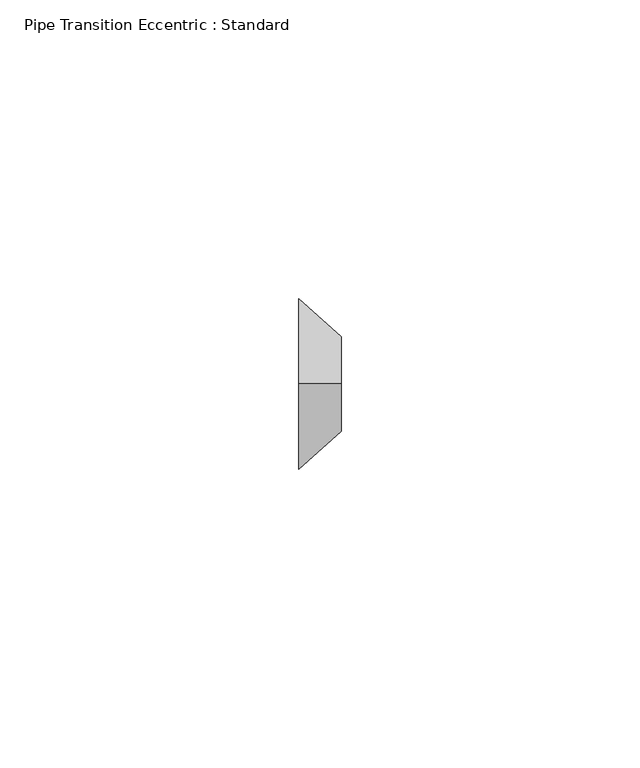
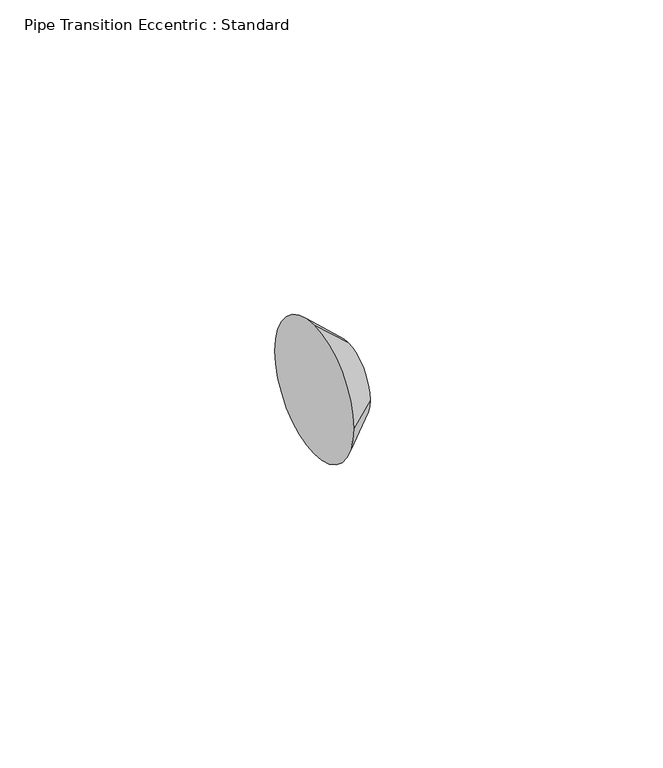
"""IFC4 building model written with IfcOpenShell, lengths in millimetres: pipe fitting geometry, Pipe Transition Eccentric : Standard."""

import ifcopenshell
import ifcopenshell.guid

model = None  # the IFC model being written
_history = None  # IfcOwnerHistory: only IFC2X3 demands one
_inside = {}  # id of a spatial element -> (the spatial element, [elements in it])
_under = {}  # id of a project, library or spatial element -> (it, [spatial elements below it])
_declared = {}  # id of a project -> (the project, [libraries it declares])
_typed = {}  # id of a type object -> (the type object, [elements of that type])
_made_of = {}  # id of a material, layer set ... -> (it, [elements and type objects made of it])


def new_model(schema):
    """Start an empty IFC model of exactly this schema.

    Asked for "IFC4X3", IfcOpenShell would pick the latest addendum, in which some entities
    have other attributes; the version numbers below select the first issue.
    IFC2X3 requires an IfcOwnerHistory on every rooted entity: one is made here for all.
    """
    global model, _history
    if schema == "IFC4X3":
        model = ifcopenshell.file(schema_version=(4, 3, 0, 0))
    else:
        model = ifcopenshell.file(schema=schema)
    _inside.clear()
    _under.clear()
    _declared.clear()
    _typed.clear()
    _made_of.clear()
    _history = None
    if model.schema == "IFC2X3":
        org = make("IfcOrganization", Name="unknown")
        user = make(
            "IfcPersonAndOrganization",
            ThePerson=make("IfcPerson", FamilyName="unknown"),
            TheOrganization=org,
        )
        app = make(
            "IfcApplication",
            ApplicationDeveloper=org,
            Version="unknown",
            ApplicationFullName="unknown",
            ApplicationIdentifier="unknown",
        )
        _history = make(
            "IfcOwnerHistory",
            OwningUser=user,
            OwningApplication=app,
            ChangeAction="ADDED",
            CreationDate=0,
        )
    return model


def make(cls, **values):
    """One entity of the class cls with the attributes given. An attribute that is None is left unset."""
    return model.create_entity(
        cls, **{name: value for name, value in values.items() if value is not None}
    )


def rooted(cls, **values):
    """An entity with a GlobalId (a new one), such as an element, a storey or a relation."""
    return make(cls, GlobalId=ifcopenshell.guid.new(), OwnerHistory=_history, **values)


def si_unit(unit_type, name, prefix=None):
    """IfcSIUnit, for example si_unit("LENGTHUNIT", "METRE", prefix="MILLI")."""
    return make("IfcSIUnit", UnitType=unit_type, Prefix=prefix, Name=name)


def assignment(units):
    """IfcUnitAssignment: the units of a project."""
    return None if units is None else make("IfcUnitAssignment", Units=units)


def point(xyz):
    """IfcCartesianPoint."""
    return None if xyz is None else make("IfcCartesianPoint", Coordinates=xyz)


def direction(xyz):
    """IfcDirection."""
    return None if xyz is None else make("IfcDirection", DirectionRatios=xyz)


def frame(location, z_axis=None, x_axis=None):
    """IfcAxis2Placement3D, a coordinate frame: its origin and axes. An axis left out is left unset."""
    return make(
        "IfcAxis2Placement3D",
        Location=point(location),
        Axis=direction(z_axis),
        RefDirection=direction(x_axis),
    )


def origin():
    """The frame at (0, 0, 0) with its axes left unset."""
    return frame((0.0, 0.0, 0.0))


def place(relative_to, where):
    """IfcLocalPlacement: puts the frame where relative to a parent placement (None: the world)."""
    return make(
        "IfcLocalPlacement", PlacementRelTo=relative_to, RelativePlacement=where
    )


def context(
    kind, dimensions, precision=None, world=None, true_north=None, identifier=None
):
    """IfcGeometricRepresentationContext, for example the 3D "Model" context."""
    return make(
        "IfcGeometricRepresentationContext",
        ContextIdentifier=identifier,
        ContextType=kind,
        CoordinateSpaceDimension=dimensions,
        Precision=precision,
        WorldCoordinateSystem=world,
        TrueNorth=true_north,
    )


def project(units=None, contexts=None):
    """IfcProject with its units and contexts."""
    return rooted(
        "IfcProject",
        Name="project",
        RepresentationContexts=contexts,
        UnitsInContext=assignment(units),
    )


def spatial(cls, under=None, at=None, **own):
    """A site, building, storey or space (cls), placed at a placement, below another one or the project."""
    s = rooted(cls, ObjectPlacement=at, **own)
    if under is not None:
        _under.setdefault(under.id(), (under, []))[1].append(s)
    return s


def polyline(points):
    """IfcPolyline through the points."""
    return make("IfcPolyline", Points=[point(p) for p in points])


def circle_curve(where, radius):
    """IfcCircle in the frame where."""
    return make("IfcCircle", Position=where, Radius=radius)


def shape(context_of_items, identifier, shape_type, items):
    """IfcShapeRepresentation: the items that make up one representation, for example the "Body"."""
    return make(
        "IfcShapeRepresentation",
        ContextOfItems=context_of_items,
        RepresentationIdentifier=identifier,
        RepresentationType=shape_type,
        Items=items,
    )


def source(mapping_origin, context_of_items, identifier, shape_type, items):
    """IfcRepresentationMap: a shape defined once, which mapped items show again and again."""
    return make(
        "IfcRepresentationMap",
        MappingOrigin=mapping_origin,
        MappedRepresentation=shape(context_of_items, identifier, shape_type, items),
    )


def transform(
    local_origin,
    x_axis=None,
    y_axis=None,
    z_axis=None,
    scale=None,
    scale2=None,
    scale3=None,
    uniform=True,
):
    """IfcCartesianTransformationOperator3D, or its non-uniform kind. x_axis, y_axis, z_axis: its Axis1, 2, 3."""
    if uniform:
        return make(
            "IfcCartesianTransformationOperator3D",
            Axis1=direction(x_axis),
            Axis2=direction(y_axis),
            LocalOrigin=point(local_origin),
            Scale=scale,
            Axis3=direction(z_axis),
        )
    return make(
        "IfcCartesianTransformationOperator3DnonUniform",
        Axis1=direction(x_axis),
        Axis2=direction(y_axis),
        LocalOrigin=point(local_origin),
        Scale=scale,
        Axis3=direction(z_axis),
        Scale2=scale2,
        Scale3=scale3,
    )


def mapped(mapping_source, mapping_target):
    """IfcMappedItem: shows the shape of a source again, moved by a transform."""
    return make(
        "IfcMappedItem", MappingSource=mapping_source, MappingTarget=mapping_target
    )


def made_of(thing, what):
    """Note that an element or type object is made of a material, layer set ...; save() writes the relation."""
    if what is not None:
        _made_of.setdefault(what.id(), (what, []))[1].append(thing)
    return thing


def element(
    cls,
    number,
    at=None,
    inside=None,
    cuts=None,
    type_object=None,
    material=None,
    context=None,
    identifier="Body",
    shape_type=None,
    held_by="IfcProductDefinitionShape",
    body=None,
    shapes=None,
    **own,
):
    """One element of the class cls, such as IfcWall. Its Tag is "e" and its number.

    at: its placement. inside: the storey or other place that contains it. cuts: it is an
    opening in that element (IfcRelVoidsElement). A single representation is given by context,
    identifier, shape_type and body (its items); several are given by shapes. held_by: the class
    of the entity that holds the representations. save() writes the other relations.
    """
    e = rooted(cls, Tag="e%d" % number, ObjectPlacement=at, **own)
    if body is not None:
        shapes = [shape(context, identifier, shape_type, body)]
    if shapes is not None:
        e.Representation = make(held_by, Representations=shapes)
    if inside is not None:
        _inside.setdefault(inside.id(), (inside, []))[1].append(e)
    if cuts is not None:
        rooted(
            "IfcRelVoidsElement", RelatingBuildingElement=cuts, RelatedOpeningElement=e
        )
    if type_object is not None:
        _typed.setdefault(type_object.id(), (type_object, []))[1].append(e)
    return made_of(e, material)


def aggregate(whole, parts):
    """IfcRelAggregates: a whole, such as a stair, and the parts it consists of."""
    return rooted("IfcRelAggregates", RelatingObject=whole, RelatedObjects=parts)


def save(model, path):
    """Write the relations noted so far, then the file.

    IfcRelAggregates (storeys below a building ...), IfcRelContainedInSpatialStructure (elements
    in a storey), IfcRelDefinesByType, IfcRelAssociatesMaterial and IfcRelDeclares: one each for
    every whole, place, type object, material and project.
    """
    for whole, parts in _under.values():
        aggregate(whole, parts)
    for where, things in _inside.values():
        rooted(
            "IfcRelContainedInSpatialStructure",
            RelatedElements=things,
            RelatingStructure=where,
        )
    for kind, things in _typed.values():
        rooted("IfcRelDefinesByType", RelatedObjects=things, RelatingType=kind)
    for what, things in _made_of.values():
        rooted("IfcRelAssociatesMaterial", RelatedObjects=things, RelatingMaterial=what)
    for by, libraries in _declared.values():
        rooted("IfcRelDeclares", RelatingContext=by, RelatedDefinitions=libraries)
    model.write(path)


def plane_surface(at):
    """IfcPlane: the flat surface through the origin of the frame at, square to its z axis."""
    return make("IfcPlane", Position=at)


def revolved_surface(curve, axis_point, axis_direction):
    """IfcSurfaceOfRevolution: the curve turned about the line through axis_point along axis_direction."""
    return make(
        "IfcSurfaceOfRevolution",
        SweptCurve=make("IfcArbitraryOpenProfileDef", ProfileType="CURVE", Curve=curve),
        AxisPosition=make("IfcAxis1Placement", Location=point(axis_point), Axis=direction(axis_direction)),
    )


def advanced_brep(points, edges, surfaces, faces):
    """IfcAdvancedBrep: a solid bounded by faces that lie on surfaces and meet in shared edges.

    An edge is (start, end): straight between two places in points (the first is 0);
    or (start, end, curve); or (start, end, curve, False) where it runs against its curve.
    A face is (place in surfaces, loops), or (place, loops, False) where it looks against
    its surface's normal. A loop lists edges by number (the first is 1), with a minus sign
    where the edge is run from its end to its start. The first loop is the outer one.
    """
    corners = [point(p) for p in points]
    vertices = [make("IfcVertexPoint", VertexGeometry=c) for c in corners]
    made = []
    for start, end, *more in edges:
        made.append(
            make(
                "IfcEdgeCurve",
                EdgeStart=vertices[start],
                EdgeEnd=vertices[end],
                EdgeGeometry=more[0] if more else make("IfcPolyline", Points=[corners[start], corners[end]]),
                SameSense=more[1] if len(more) > 1 else True,
            )
        )
    hull = []
    for where, loops, *sense in faces:
        bounds = []
        for j, loop in enumerate(loops):
            ring = [make("IfcOrientedEdge", EdgeElement=made[abs(k) - 1], Orientation=k > 0) for k in loop]
            bounds.append(
                make(
                    "IfcFaceOuterBound" if j == 0 else "IfcFaceBound",
                    Bound=make("IfcEdgeLoop", EdgeList=ring),
                    Orientation=True,
                )
            )
        hull.append(make("IfcAdvancedFace", Bounds=bounds, FaceSurface=surfaces[where], SameSense=sense[0] if sense else True))
    return make("IfcAdvancedBrep", Outer=make("IfcClosedShell", CfsFaces=hull))


def pipe_transition_eccentric_standard_3095b3c8(model_context):
    return source(origin(), model_context, "Body", "AdvancedBrep", [
        advanced_brep(
        [(7.14375, 0.0, 7.9375), (7.14375, -7.9375, 0.0), (7.14375, 0.0, -7.9375), (7.14375, 7.9375, 0.0), (0.0, 0.0, 14.2875), (0.0, 14.2875, 0.0), (0.0, 0.0, -14.2875), (0.0, -14.2875, 0.0)],
        [
            (0, 1, circle_curve(frame((7.14375, 0.0, 0.0), z_axis=(1.0, 0.0, 0.0), x_axis=(0.0, 0.0, 1.0)), 7.9375)),
            (1, 2, circle_curve(frame((7.14375, 0.0, 0.0), z_axis=(1.0, 0.0, 0.0), x_axis=(0.0, -1.0, 0.0)), 7.9375)),
            (2, 3, circle_curve(frame((7.14375, 0.0, 0.0), z_axis=(1.0, 0.0, 0.0), x_axis=(0.0, 0.0, -1.0)), 7.9375)),
            (3, 0, circle_curve(frame((7.14375, 0.0, 0.0), z_axis=(1.0, 0.0, 0.0), x_axis=(0.0, 1.0, 0.0)), 7.9375)),
            (4, 5, circle_curve(frame((0.0, 0.0, 0.0), z_axis=(-1.0, 0.0, 0.0), x_axis=(0.0, 1.0, 0.0)), 14.2875)),
            (5, 6, circle_curve(frame((0.0, 0.0, 0.0), z_axis=(-1.0, 0.0, 0.0), x_axis=(0.0, 0.0, -1.0)), 14.2875)),
            (6, 7, circle_curve(frame((0.0, 0.0, 0.0), z_axis=(-1.0, 0.0, 0.0), x_axis=(0.0, -1.0, 0.0)), 14.2875)),
            (7, 4, circle_curve(frame((0.0, 0.0, 0.0), z_axis=(-1.0, 0.0, 0.0), x_axis=(0.0, 0.0, 1.0)), 14.2875)),
            (7, 1),
            (0, 4),
            (6, 2),
            (5, 3),
        ],
        [
            plane_surface(frame((7.14375, 0.0, 0.0), z_axis=(1.0, 0.0, 0.0), x_axis=(0.0, -1.0, 0.0))),
            plane_surface(frame((0.0, 0.0, 0.0), z_axis=(-1.0, 0.0, 0.0), x_axis=(0.0, -1.0, 0.0))),
            revolved_surface(polyline([(7.143750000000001, 0.0, 7.9375), (0.0, 0.0, 14.2875)]), (16.0734375, 0.0, 0.0), (-1.0, 0.0, 0.0)),
            revolved_surface(polyline([(7.143750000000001, -7.9375, 0.0), (0.0, -14.2875, 0.0)]), (16.0734375, 0.0, 0.0), (-1.0, 0.0, 0.0)),
            revolved_surface(polyline([(7.143750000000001, 0.0, -7.9375), (0.0, 0.0, -14.2875)]), (16.0734375, 0.0, 0.0), (-1.0, 0.0, 0.0)),
            revolved_surface(polyline([(7.143750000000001, 7.9375, 0.0), (0.0, 14.2875, 0.0)]), (16.0734375, 0.0, 0.0), (-1.0, 0.0, 0.0)),
        ],
        [
            (0, [[1, 2, 3, 4]]),
            (1, [[5, 6, 7, 8]]),
            (2, [[-8, 9, -1, 10]]),
            (3, [[-7, 11, -2, -9]]),
            (4, [[-6, 12, -3, -11]]),
            (5, [[-5, -10, -4, -12]]),
        ],
    ),
        advanced_brep(
        [(7.14375, 0.0, 7.9375), (7.14375, -7.9375, 0.0), (7.14375, 0.0, -7.9375), (7.14375, 7.9375, 0.0), (0.0, 0.0, 14.2875), (0.0, 14.2875, 0.0), (0.0, 0.0, -14.2875), (0.0, -14.2875, 0.0)],
        [
            (0, 1, circle_curve(frame((7.14375, 0.0, 0.0), z_axis=(1.0, 0.0, -1.2169486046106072e-12), x_axis=(1.2169000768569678e-12, 0.0, 1.0)), 7.9375)),
            (1, 2, circle_curve(frame((7.14375, 0.0, 0.0), z_axis=(1.0, 0.0, -1.169579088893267e-12), x_axis=(0.0, -1.0, 0.0)), 7.9375)),
            (2, 3, circle_curve(frame((7.14375, 0.0, 0.0), z_axis=(1.0, 0.0, -1.870967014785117e-12), x_axis=(-1.8709713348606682e-12, 0.0, -1.0)), 7.9375)),
            (3, 0, circle_curve(frame((7.14375, 0.0, 0.0), z_axis=(1.0, 0.0, 0.0), x_axis=(0.0, 1.0, 0.0)), 7.9375)),
            (4, 5, circle_curve(frame((0.0, 0.0, 0.0), z_axis=(-1.0, 0.0, 0.0), x_axis=(0.0, 1.0, 0.0)), 14.2875)),
            (5, 6, circle_curve(frame((0.0, 0.0, 0.0), z_axis=(-1.0, 0.0, 1.870967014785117e-12), x_axis=(-1.8709713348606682e-12, 0.0, -1.0)), 14.2875)),
            (6, 7, circle_curve(frame((0.0, 0.0, 0.0), z_axis=(-1.0, 0.0, 1.169579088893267e-12), x_axis=(0.0, -1.0, 0.0)), 14.2875)),
            (7, 4, circle_curve(frame((0.0, 0.0, 0.0), z_axis=(-1.0, 0.0, 1.2169486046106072e-12), x_axis=(1.2169000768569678e-12, 0.0, 1.0)), 14.2875)),
            (7, 1),
            (0, 4),
            (6, 2),
            (5, 3),
        ],
        [
            plane_surface(frame((7.14375, 0.0, 0.0), z_axis=(1.0, 0.0, 0.0), x_axis=(0.0, -1.0, 0.0))),
            plane_surface(frame((0.0, 0.0, 0.0), z_axis=(-1.0, 0.0, 0.0), x_axis=(0.0, -1.0, 0.0))),
            revolved_surface(polyline([(7.143750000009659, 0.0, 7.937499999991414), (0.0, 0.0, 14.2875)]), (16.0734375, 0.0, 0.0), (-1.0, 0.0, 1.2169486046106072e-12)),
            revolved_surface(polyline([(7.143750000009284, -7.937499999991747, 0.0), (0.0, -14.2875, 0.0)]), (16.0734375, 0.0, 0.0), (-1.0, 0.0, 1.169579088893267e-12)),
            revolved_surface(polyline([(7.143750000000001, 0.0, -7.9375), (-2.673061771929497e-11, 0.0, -14.287500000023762)]), (16.0734375, 0.0, 0.0), (-1.0, 0.0, 1.870967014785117e-12)),
            revolved_surface(polyline([(7.143750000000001, 7.9375, 0.0), (0.0, 14.2875, 0.0)]), (16.0734375, 0.0, 0.0), (-1.0, 0.0, 0.0)),
        ],
        [
            (0, [[1, 2, 3, 4]]),
            (1, [[5, 6, 7, 8]]),
            (2, [[-8, 9, -1, 10]]),
            (3, [[-7, 11, -2, -9]]),
            (4, [[-6, 12, -3, -11]]),
            (5, [[-5, -10, -4, -12]]),
        ],
    ),
    ])


if __name__ == "__main__":
    model = new_model("IFC4")
    model_context = context("Model", 3, world=origin())
    ifc_project = project(units=[si_unit("LENGTHUNIT", "METRE", prefix="MILLI")], contexts=[model_context])
    site = spatial("IfcSite", under=ifc_project)
    building = spatial("IfcBuilding", under=site)
    placement = place(None, origin())
    pipe_transition_eccentric_standard_shape = pipe_transition_eccentric_standard_3095b3c8(model_context)
    element("IfcPipeFitting", 1, ObjectType="Pipe Transition Eccentric : Standard", at=placement, inside=building, context=model_context, shape_type="MappedRepresentation", body=[
        mapped(pipe_transition_eccentric_standard_shape, transform((0.0, 0.0, 0.0), x_axis=(1.0, 0.0, 0.0), y_axis=(0.0, 1.0, 0.0), z_axis=(0.0, 0.0, 1.0))),
    ])
    save(model, "model.ifc")
